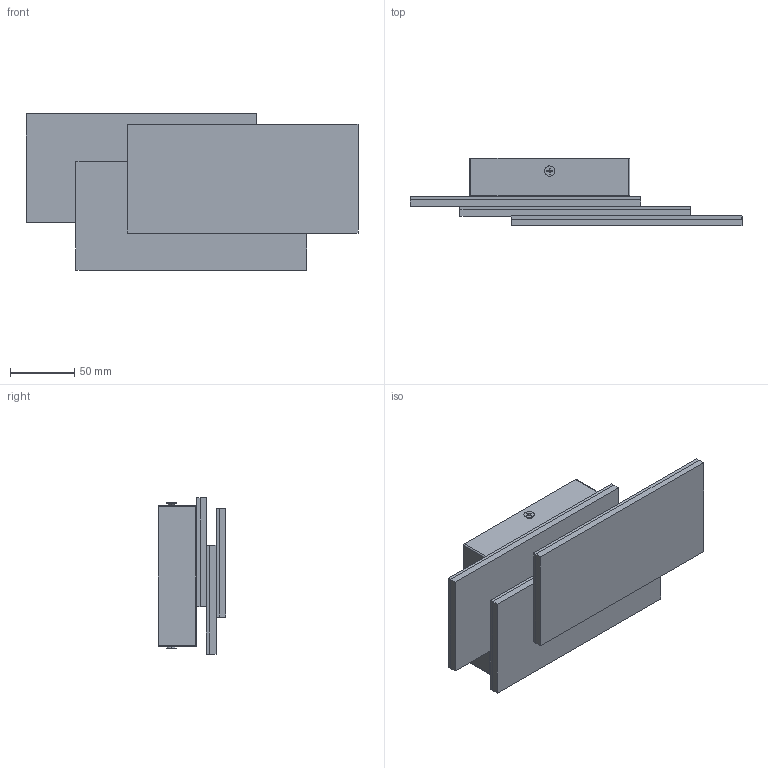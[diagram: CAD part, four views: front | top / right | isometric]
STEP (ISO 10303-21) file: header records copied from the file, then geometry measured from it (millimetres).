
FILE_DESCRIPTION(('CATIA V5 STEP Exchange'),'2;1');
FILE_NAME('E:\GaaPro\luo\5.待开发项目\1.壁灯\GW-6809\GW-6809-24W\GW-6809-24W.stp','2022-07-12T06:39:18+00:00',('none'),('none'),'CATIA Version 5-6 Release 2018','CATIA V5 STEP AP203','none');
FILE_SCHEMA(('CONFIG_CONTROL_DESIGN'));
Length unit declared in the file: millimetre
Products named in the file (1): Product3
Assembly tree (19 placements, depth 2):
  Product3
    #57
    #944
    #2119
    #3791
    #4678
    #5840
    #6727
    #7789  x5
    #8846  x3
    #9706  x2
    #10016
    #11682
Bounding box: 259 x 52.5 x 122 mm (x, y, z)
Volume: 418123.5 mm3; surface area: 293211.6 mm2
Topology: 21 solids, 21 shells, 678 faces, 1690 edges, 1083 vertices
Faces by surface type: cylinder 306, plane 278, cone 58, torus 18, sphere 16, bspline 2
Entity records: 15101 total; most frequent: CARTESIAN_POINT 3550, ORIENTED_EDGE 2460, DIRECTION 1921, EDGE_CURVE 1230, AXIS2_PLACEMENT_3D 858, VERTEX_POINT 791, VECTOR 638, LINE 638
